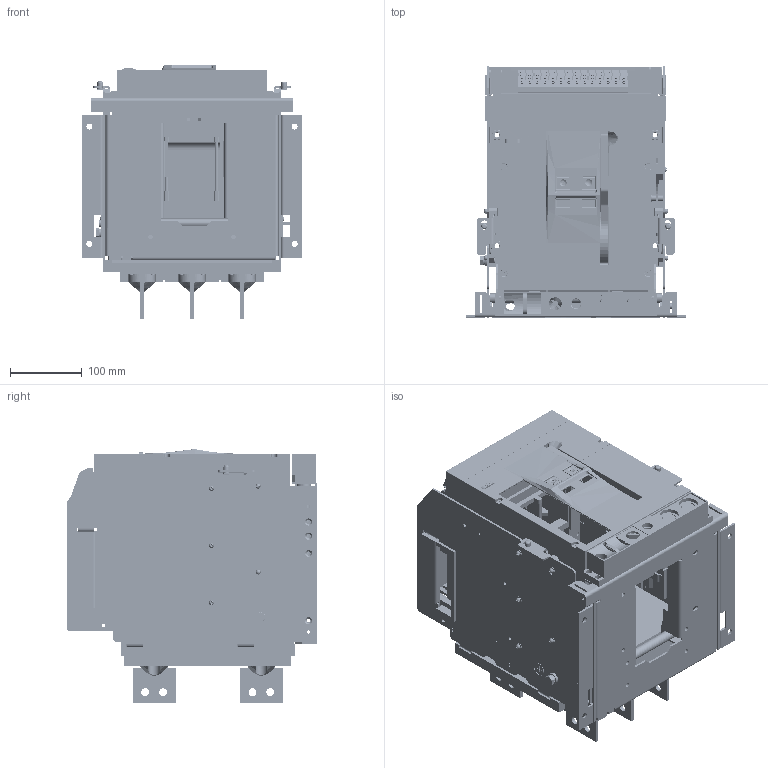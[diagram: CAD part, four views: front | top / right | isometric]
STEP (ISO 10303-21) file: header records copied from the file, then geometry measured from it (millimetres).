
FILE_DESCRIPTION((''),'2;1');
FILE_NAME('NA8G-1600-630-DO-3P-V_ASM','2019-05-21T16:47:17',('lcc'),(''),'CREO PARAMETRIC BY PTC INC, 2018020','CREO PARAMETRIC BY PTC INC, 2018020','');
FILE_SCHEMA(('CONFIG_CONTROL_DESIGN','SHAPE_APPEARANCE_LAYERS_GROUPS'));
Products named in the file (55): 8-024-504; 8-300-164; 8-141-125; 8-860-349; 8-441-081; 8-200-099; 8-236-064; 5-203-058_ASM; 8-145-063; 8-211-092; 5-024-172_ASM; 8-050-244; 8-960-058; 8-960-056; 8-960-057; 8-960-060; 8-960-059; 8-127-020; 8-125-057; 8-123-120; 8-261-001; 8-125-001; 8-210-176; 5-124-010_ASM; 8-233-301; GBT97_1-4; GBT93-4; GBT818-M4X10; GBT845-ST4_2X9_5C; GBT6170-M8; 5-050-095_ASM; 8-050-243; 8-261-002; 8-125-002; 5-124-011_ASM; GBT97_1-8; GBT93-8; GBT5783-M8X16; 5-050-096_ASM; 8-300-166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
Assembly tree (108 placements, depth 4):
  NA8G-1600-630-DO-3P-V_ASM
    5-024-172_ASM
      8-024-504
      8-300-164
      8-141-125
      8-860-349
      8-441-081
      5-203-058_ASM
        8-200-099
        8-236-064  x2
      8-145-063  x2
      8-211-092
    5-050-095_ASM
      8-050-244
      8-960-058
      8-960-056
      8-960-057
      8-960-060
      8-960-059
      8-127-020
      8-125-057
      8-123-120
      5-124-010_ASM
        8-261-001
        8-125-001
        8-210-176
      8-233-301
      GBT97_1-4  x5
      GBT93-4  x5
      GBT818-M4X10  x5
      GBT845-ST4_2X9_5C
      GBT6170-M8  x2
    5-050-096_ASM
      8-050-243
      8-125-057
      8-123-120
      5-124-011_ASM
        8-261-002
        8-125-002
        8-210-176
      GBT6170-M8  x2
      GBT97_1-4  x5
      GBT93-4  x5
      GBT818-M4X10  x5
      GBT97_1-8  x2
      GBT93-8
      GBT5783-M8X16
    8-300-166
    8-015-021
    8ZTD-043-780
    8ZTD-043-781
    8-300-162-2
    8-253-348
    8-253-349
    8-253-309
    5-235-147
    1600-DIJIA-3P
    1600-DUANZI-CTS_ASM
      8ZTD-064-138
      8ZTD-024-689  x14
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Bounding box: 308 x 351 x 355 mm (x, y, z)
Volume: 6667997.8 mm3; surface area: 1904840.5 mm2
Topology: 101 solids, 147 shells, 7090 faces, 19392 edges, 12752 vertices
Faces by surface type: plane 5206, cylinder 1645, cone 102, bspline 62, torus 42, sphere 32, extrusion 1
Entity records: 174495 total; most frequent: CARTESIAN_POINT 26669, ORIENTED_EDGE 24100, DIRECTION 23720, EDGE_CURVE 12061, PRESENTATION_STYLE_ASSIGNMENT 10146, STYLED_ITEM 10106, CURVE_STYLE 9981, VECTOR 9316
